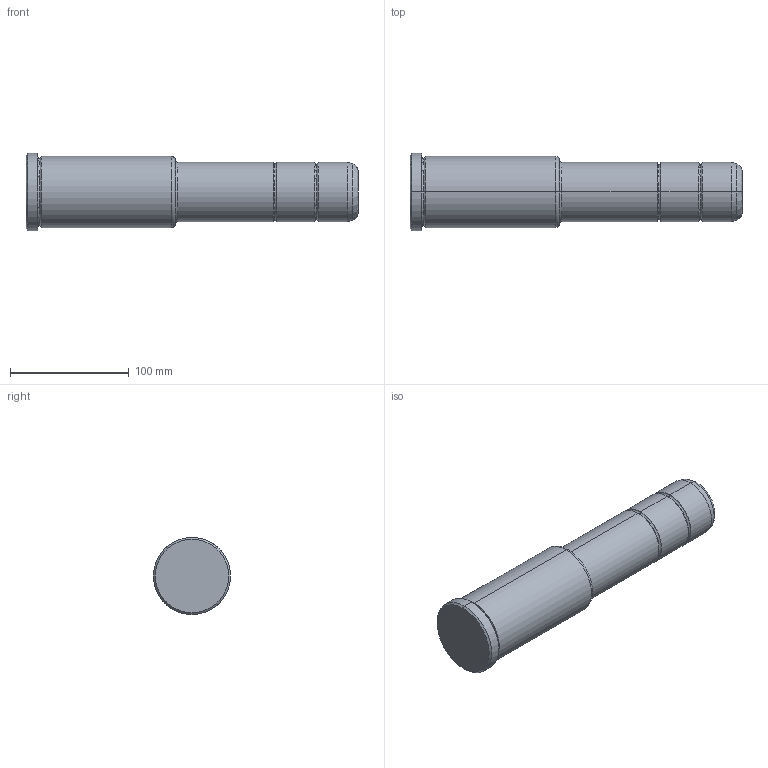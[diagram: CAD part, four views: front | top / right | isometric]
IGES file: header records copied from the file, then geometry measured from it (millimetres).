
Start section: START RECORD GO HERE.
Global section: file name: 351-50X126X280.igs; native system: DASSAULT SYSTEMES CATIA V5 R20 - www.3ds.com; preprocessor: CATIA Version 5 Release 20 ; author: Utente; organization: NB04-ASUS; date: 20211103.204201; units: millimetre
Bounding box: 280 x 65 x 65 mm (x, y, z)
Surface area: 54364.6 mm2 (no closed solid volume)
Topology: 0 solids, 0 shells, 35 faces, 196 edges, 196 vertices
Faces by surface type: revolution 32, plane 3
